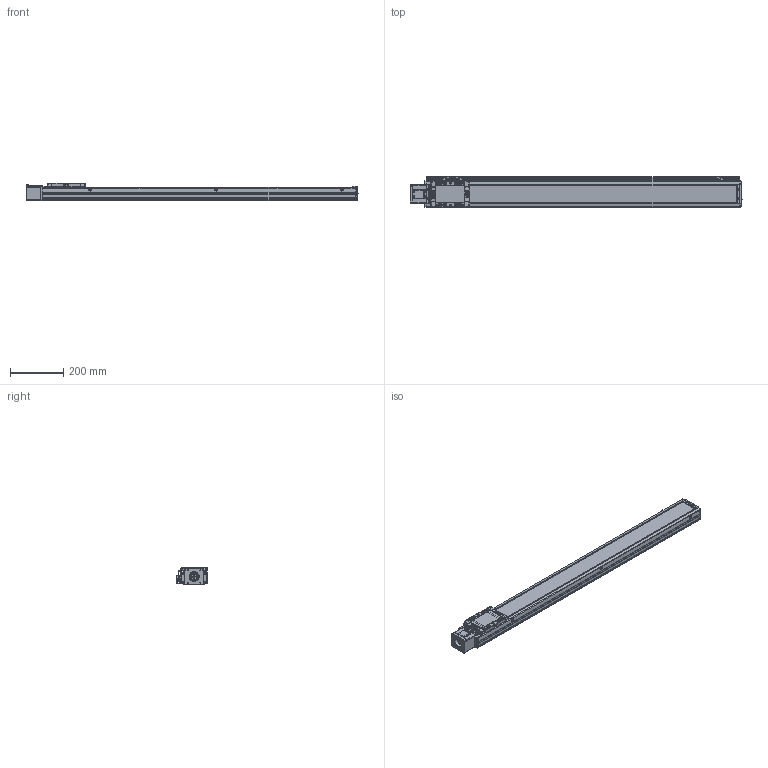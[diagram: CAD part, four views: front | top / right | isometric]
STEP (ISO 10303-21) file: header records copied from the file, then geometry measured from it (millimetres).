
FILE_DESCRIPTION(('STEP AP214'),'1');
FILE_NAME('Z:/Web/3D/SAN100/SAN100 양산용 (STEP)/SAN100ㅁㅁ-1000S+3SL.stp','2013-04-30T05:02:34',(' '),(' '),'Spatial InterOp 3D',' ',' ');
FILE_SCHEMA(('automotive_design'));
Length unit declared in the file: millimetre
Products named in the file (60): SGD-SAN100; M3.0 x 6.0; SRL-16x17-380L; EE-SX674; SBK-SX674-352; 스크루 : Round - M3.0 x 6.0; MTHZ-SAN100-S56A; SDA26C-8-6.35; SSFX-SAN65; CPLCV-SAN65; 스크루 : Round - M4.0 x 10.0; FRCV-SAN100; SUS COVER; SFX-SAN100; RRCV-SAN100; FRBL-SAN100; SLBL-SAN100; SLCV-SAN100; 스크루 : Countersunk - M3.0 x 6.0; BASE; 스크루 : Round - M5.0 x 6.0
Bounding box: 1252.5 x 116 x 66 mm (x, y, z)
Volume: 3446741.9 mm3; surface area: 939484.9 mm2
Topology: 60 solids, 61 shells, 3063 faces, 8060 edges, 5223 vertices
Faces by surface type: plane 1528, cylinder 1125, cone 269, sphere 76, torus 45, bspline 20
Entity records: 122552 total; most frequent: CARTESIAN_POINT 19128, DIRECTION 17020, ORIENTED_EDGE 15900, EDGE_CURVE 7950, AXIS2_PLACEMENT_3D 6182, VERTEX_POINT 5223, LINE 4656, VECTOR 4656
